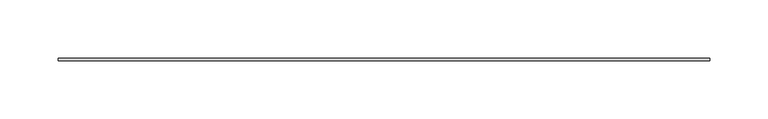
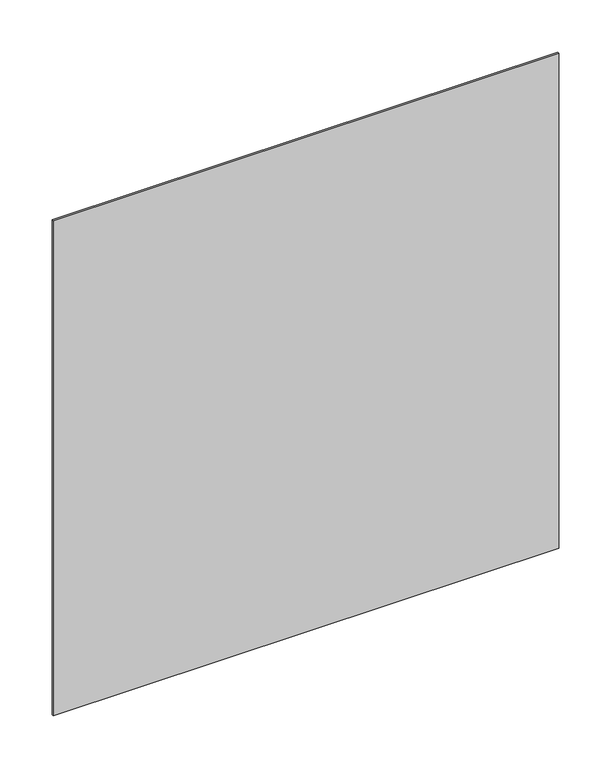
"""IFC4 building model written with IfcOpenShell, lengths in millimetres: electric distribution board geometry, DKC_Монтажная плата Фиберглас : DKC_Монтажная плата Фиберглас."""

from ifc_helpers import new_model, si_unit, frame, origin, place, context, project, spatial, polyline, outline, extrude, source, transform, mapped, element, save


def electric_distribution_board_4276beff(model_context):
    return source(origin(), model_context, "Body", "SweptSolid", [
        extrude(outline(polyline([(280.0, -49.0), (280.0, -51.0), (-280.0, -51.0), (-280.0, -49.0), (280.0, -49.0)])), frame((0.0, 0.0, 50.0), z_axis=(0.0, 0.0, 1.0), x_axis=(1.0, 0.0, 0.0)), (0.0, 0.0, 1.0), 580.0),
    ])


if __name__ == "__main__":
    model = new_model("IFC4")
    model_context = context("Model", 3, world=origin())
    ifc_project = project(units=[si_unit("LENGTHUNIT", "METRE", prefix="MILLI")], contexts=[model_context])
    site = spatial("IfcSite", under=ifc_project)
    building = spatial("IfcBuilding", under=site)
    placement = place(None, origin())
    electric_distribution_board_shape = electric_distribution_board_4276beff(model_context)
    element("IfcElectricDistributionBoard", 1, ObjectType="DKC_Монтажная плата Фиберглас : DKC_Монтажная плата Фиберглас", at=placement, inside=building, context=model_context, shape_type="MappedRepresentation", body=[
        mapped(electric_distribution_board_shape, transform((0.0, 0.0, 0.0), x_axis=(1.0, 0.0, 0.0), y_axis=(0.0, 1.0, 0.0), z_axis=(0.0, 0.0, 1.0))),
    ])
    save(model, "model.ifc")
